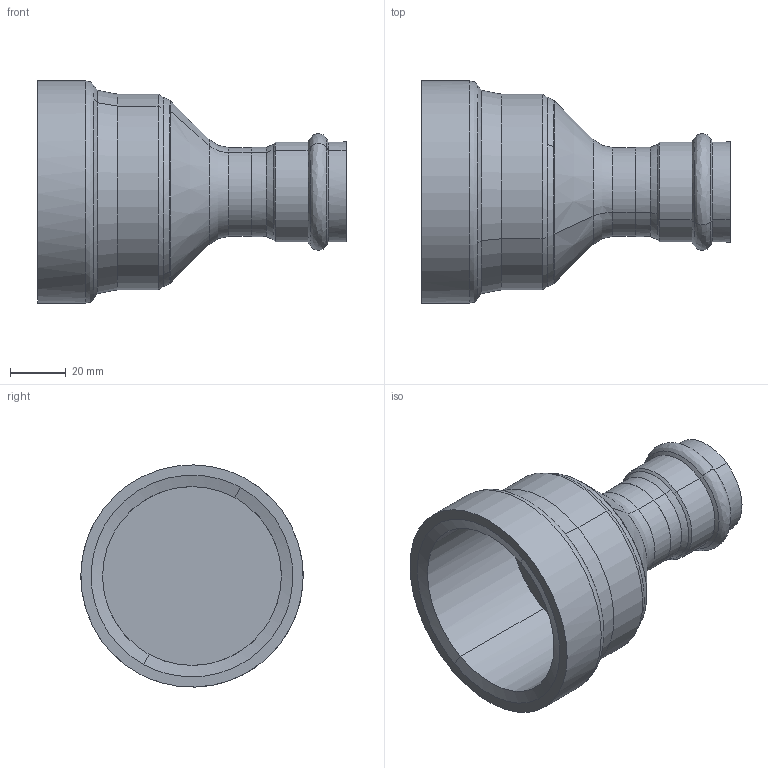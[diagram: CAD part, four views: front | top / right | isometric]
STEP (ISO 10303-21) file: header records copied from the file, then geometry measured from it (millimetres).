
FILE_DESCRIPTION(('STEP AP214'),'1');
FILE_NAME('pim0004394.stp','2015-04-30T11:38:12',('Cad-Pim'),('TransMagic, Inc.'),'TMR11sp0','TransMagic R11',' ');
FILE_SCHEMA(('AUTOMOTIVE_DESIGN'));
Length unit declared in the file: millimetre
Products named in the file (1): pim0004394
Bounding box: 110.31 x 79.49 x 79.49 mm (x, y, z)
Volume: 123329.8 mm3; surface area: 37497.6 mm2
Topology: 1 solids, 1 shells, 48 faces, 131 edges, 86 vertices
Faces by surface type: cone 18, cylinder 16, bspline 14
Entity records: 2394 total; most frequent: CARTESIAN_POINT 997, ORIENTED_EDGE 258, DIRECTION 162, EDGE_CURVE 129, VERTEX_POINT 86, AXIS2_PLACEMENT_3D 64, EDGE_LOOP 51, STYLED_ITEM 49
